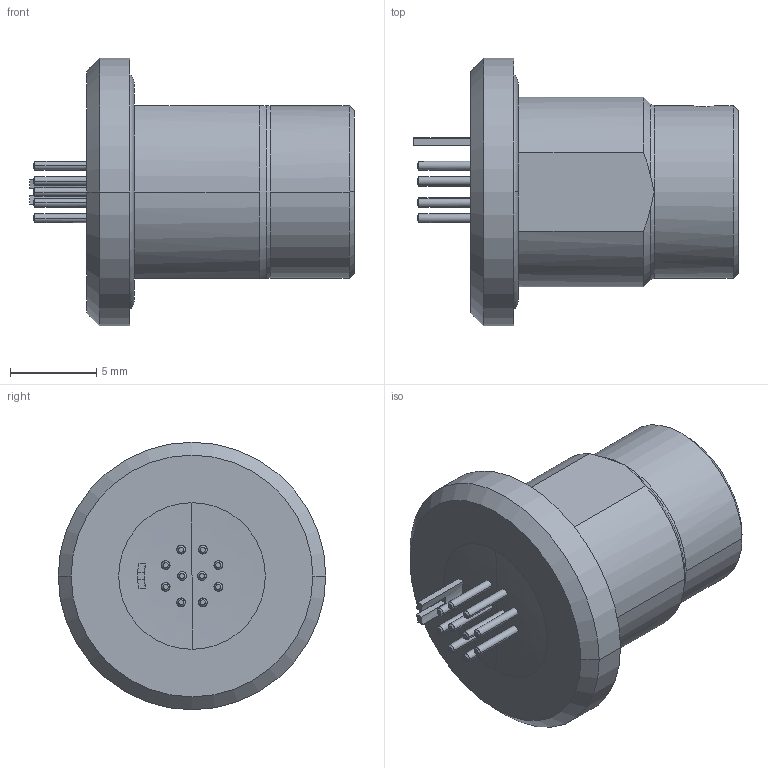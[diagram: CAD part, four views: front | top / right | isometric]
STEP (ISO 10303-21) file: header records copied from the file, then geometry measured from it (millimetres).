
FILE_DESCRIPTION((''),'2;1');
FILE_NAME('GK0Y_R-P10UC00-000L_WITHOUT-HEX','2020-10-13T12:19:13',('EUnterhaslberger'),(''),'CREO PARAMETRIC BY PTC INC, 2018300','CREO PARAMETRIC BY PTC INC, 2018300','');
FILE_SCHEMA(('AP242_MANAGED_MODEL_BASED_3D_ENGINEERING_MIM_LF { 1 0 10303 442 1 1 4 }'));
Length unit declared in the file: millimetre
Products named in the file (1): GK0Y_R-P10UC00-000L_WITHOUT-HEX
Bounding box: 18.8 x 15.5 x 15.5 mm (x, y, z)
Volume: 1257.5 mm3; surface area: 1721.9 mm2
Topology: 2 solids, 2 shells, 208 faces, 523 edges, 344 vertices
Faces by surface type: plane 64, cylinder 60, cone 56, torus 26, bspline 2
Entity records: 8082 total; most frequent: CARTESIAN_POINT 1517, DIRECTION 1114, ORIENTED_EDGE 1042, EDGE_CURVE 521, AXIS2_PLACEMENT_3D 457, VERTEX_POINT 344, CIRCLE 251, EDGE_LOOP 237
